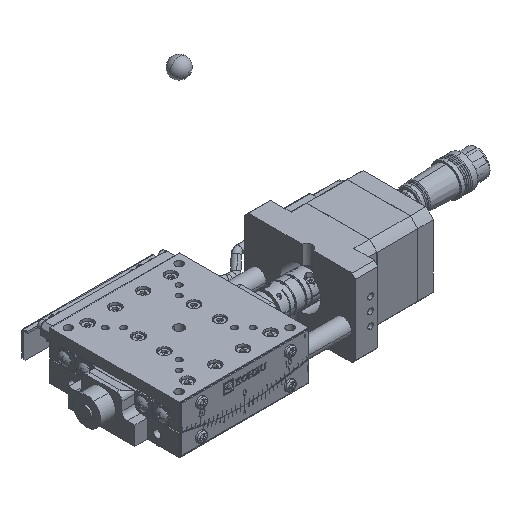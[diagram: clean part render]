
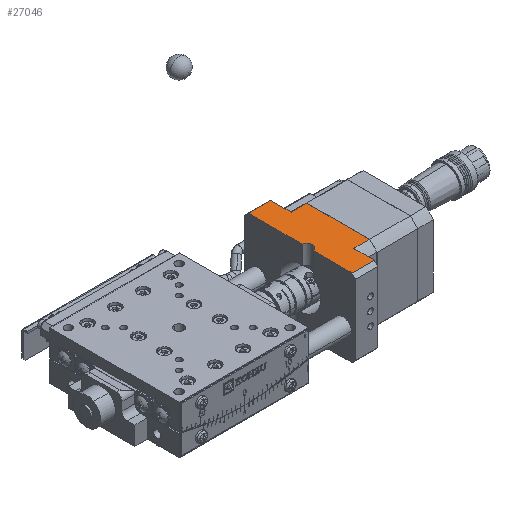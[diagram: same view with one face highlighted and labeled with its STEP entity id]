
A CAD part, isometric view. The second image highlights one B-rep face of the part: STEP entity #27046.
In plain terms, the highlighted planar face has unit normal (0, 0, 1).
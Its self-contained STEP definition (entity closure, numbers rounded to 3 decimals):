
#432 = CARTESIAN_POINT ( 'NONE',  ( 176.244, -25., 203.929 ) ) ;
#877 = CARTESIAN_POINT ( 'NONE',  ( 164.244, -25., 203.929 ) ) ;
#3254 = ORIENTED_EDGE ( 'NONE', *, *, #57272, .F. ) ;
#4528 = EDGE_LOOP ( 'NONE', ( #11568, #46109, #7349, #28299, #41665, #23248, #57576, #45889, #3254, #4607 ) ) ;
#4607 = ORIENTED_EDGE ( 'NONE', *, *, #78742, .T. ) ;
#5425 = VERTEX_POINT ( 'NONE', #44878 ) ;
#7349 = ORIENTED_EDGE ( 'NONE', *, *, #68308, .F. ) ;
#7894 = CARTESIAN_POINT ( 'NONE',  ( 164.244, 3., 203.929 ) ) ;
#9336 = CARTESIAN_POINT ( 'NONE',  ( 184.694, -41.971, 203.929 ) ) ;
#9850 = LINE ( 'NONE', #42330, #35250 ) ;
#10552 = CARTESIAN_POINT ( 'NONE',  ( 163.744, -29., 203.929 ) ) ;
#11568 = ORIENTED_EDGE ( 'NONE', *, *, #70641, .F. ) ;
#11840 = VERTEX_POINT ( 'NONE', #31364 ) ;
#11907 = DIRECTION ( 'NONE',  ( -1., 0., 0. ) ) ;
#12226 = DIRECTION ( 'NONE',  ( 0., -1., 0. ) ) ;
#12340 = DIRECTION ( 'NONE',  ( 0., 1., 0. ) ) ;
#12443 = VECTOR ( 'NONE', #11907, 1000. ) ;
#12491 = EDGE_CURVE ( 'NONE', #20735, #5425, #63018, .T. ) ;
#13830 = LINE ( 'NONE', #56595, #16796 ) ;
#13900 = VERTEX_POINT ( 'NONE', #26030 ) ;
#15986 = CARTESIAN_POINT ( 'NONE',  ( 176.244, -53., 203.929 ) ) ;
#16796 = VECTOR ( 'NONE', #57126, 1000. ) ;
#18843 = VERTEX_POINT ( 'NONE', #15986 ) ;
#19407 = EDGE_CURVE ( 'NONE', #45407, #18843, #77247, .T. ) ;
#20735 = VERTEX_POINT ( 'NONE', #40855 ) ;
#21934 = DIRECTION ( 'NONE',  ( -1., 0., 0. ) ) ;
#22616 = DIRECTION ( 'NONE',  ( 1., 0., 0. ) ) ;
#23248 = ORIENTED_EDGE ( 'NONE', *, *, #41572, .F. ) ;
#23320 = CARTESIAN_POINT ( 'NONE',  ( 164.244, -53., 203.929 ) ) ;
#23774 = DIRECTION ( 'NONE',  ( -1., 0., 0. ) ) ;
#24643 = VERTEX_POINT ( 'NONE', #7894 ) ;
#24774 = CARTESIAN_POINT ( 'NONE',  ( 184.694, -8.029, 203.929 ) ) ;
#25084 = CARTESIAN_POINT ( 'NONE',  ( 176.244, -8.029, 203.929 ) ) ;
#25658 = DIRECTION ( 'NONE',  ( 0., -1., 0. ) ) ;
#26030 = CARTESIAN_POINT ( 'NONE',  ( 164.244, -26.042, 203.929 ) ) ;
#27046 = ADVANCED_FACE ( 'NONE', ( #34971 ), #76313, .T. ) ;
#27864 = AXIS2_PLACEMENT_3D ( 'NONE', #38837, #51686, #57983 ) ;
#28299 = ORIENTED_EDGE ( 'NONE', *, *, #64478, .T. ) ;
#29309 = VECTOR ( 'NONE', #35805, 1000. ) ;
#31364 = CARTESIAN_POINT ( 'NONE',  ( 176.244, 3., 203.929 ) ) ;
#33055 = VERTEX_POINT ( 'NONE', #23320 ) ;
#34241 = VECTOR ( 'NONE', #21934, 1000. ) ;
#34971 = FACE_OUTER_BOUND ( 'NONE', #4528, .T. ) ;
#35250 = VECTOR ( 'NONE', #23774, 1000. ) ;
#35805 = DIRECTION ( 'NONE',  ( 0., -1., 0. ) ) ;
#36229 = AXIS2_PLACEMENT_3D ( 'NONE', #10552, #60063, #22616 ) ;
#38837 = CARTESIAN_POINT ( 'NONE',  ( 170.244, -25., 203.929 ) ) ;
#40398 = LINE ( 'NONE', #432, #42372 ) ;
#40855 = CARTESIAN_POINT ( 'NONE',  ( 184.694, -8.029, 203.929 ) ) ;
#41572 = EDGE_CURVE ( 'NONE', #5425, #45407, #46995, .T. ) ;
#41665 = ORIENTED_EDGE ( 'NONE', *, *, #19407, .F. ) ;
#41763 = CARTESIAN_POINT ( 'NONE',  ( 184.694, -8.029, 203.929 ) ) ;
#42330 = CARTESIAN_POINT ( 'NONE',  ( 170.244, 3., 203.929 ) ) ;
#42372 = VECTOR ( 'NONE', #25658, 1000. ) ;
#43232 = CARTESIAN_POINT ( 'NONE',  ( 164.244, -25., 203.929 ) ) ;
#43238 = CARTESIAN_POINT ( 'NONE',  ( 164.244, -31.958, 203.929 ) ) ;
#44878 = CARTESIAN_POINT ( 'NONE',  ( 184.694, -41.971, 203.929 ) ) ;
#44938 = DIRECTION ( 'NONE',  ( 0., 1., 0. ) ) ;
#45407 = VERTEX_POINT ( 'NONE', #65941 ) ;
#45889 = ORIENTED_EDGE ( 'NONE', *, *, #74530, .T. ) ;
#46109 = ORIENTED_EDGE ( 'NONE', *, *, #49694, .T. ) ;
#46455 = VERTEX_POINT ( 'NONE', #43238 ) ;
#46995 = LINE ( 'NONE', #9336, #34241 ) ;
#47683 = LINE ( 'NONE', #24774, #12443 ) ;
#48381 = VECTOR ( 'NONE', #44938, 1000. ) ;
#48671 = CARTESIAN_POINT ( 'NONE',  ( 176.244, -25., 203.929 ) ) ;
#49694 = EDGE_CURVE ( 'NONE', #13900, #46455, #61414, .T. ) ;
#50965 = VERTEX_POINT ( 'NONE', #25084 ) ;
#51686 = DIRECTION ( 'NONE',  ( 0., 0., 1. ) ) ;
#53205 = LINE ( 'NONE', #877, #48381 ) ;
#53822 = LINE ( 'NONE', #43232, #66563 ) ;
#56595 = CARTESIAN_POINT ( 'NONE',  ( 170.244, -53., 203.929 ) ) ;
#57126 = DIRECTION ( 'NONE',  ( 1., 0., 0. ) ) ;
#57272 = EDGE_CURVE ( 'NONE', #11840, #50965, #40398, .T. ) ;
#57576 = ORIENTED_EDGE ( 'NONE', *, *, #12491, .F. ) ;
#57983 = DIRECTION ( 'NONE',  ( -1., 0., 0. ) ) ;
#60063 = DIRECTION ( 'NONE',  ( 0., 0., -1. ) ) ;
#61414 = CIRCLE ( 'NONE', #36229, 3. ) ;
#63018 = LINE ( 'NONE', #41763, #64996 ) ;
#64478 = EDGE_CURVE ( 'NONE', #33055, #18843, #13830, .T. ) ;
#64996 = VECTOR ( 'NONE', #12226, 1000. ) ;
#65941 = CARTESIAN_POINT ( 'NONE',  ( 176.244, -41.971, 203.929 ) ) ;
#66563 = VECTOR ( 'NONE', #12340, 1000. ) ;
#68308 = EDGE_CURVE ( 'NONE', #33055, #46455, #53205, .T. ) ;
#70641 = EDGE_CURVE ( 'NONE', #13900, #24643, #53822, .T. ) ;
#74530 = EDGE_CURVE ( 'NONE', #20735, #50965, #47683, .T. ) ;
#76313 = PLANE ( 'NONE',  #27864 ) ;
#77247 = LINE ( 'NONE', #48671, #29309 ) ;
#78742 = EDGE_CURVE ( 'NONE', #11840, #24643, #9850, .T. ) ;
